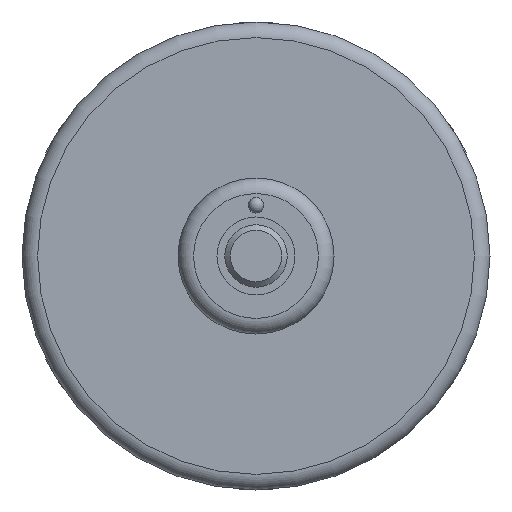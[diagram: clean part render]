
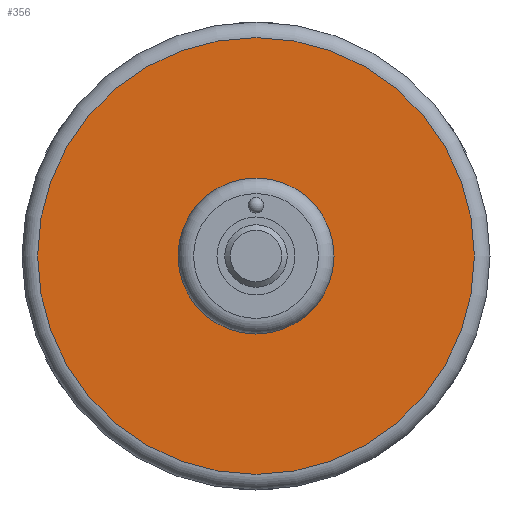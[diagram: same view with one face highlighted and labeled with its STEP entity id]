
A CAD part, left-side view. The second image highlights one B-rep face of the part: STEP entity #356.
In plain terms, the highlighted planar face has unit normal (-1, 0, 0).
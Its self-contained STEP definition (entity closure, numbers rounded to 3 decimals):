
#356 = ADVANCED_FACE( '', ( #822, #823 ), #824, .T. );
#822 = FACE_BOUND( '', #1918, .T. );
#823 = FACE_OUTER_BOUND( '', #1919, .T. );
#824 = PLANE( '', #1920 );
#1918 = EDGE_LOOP( '', ( #3468 ) );
#1919 = EDGE_LOOP( '', ( #3469 ) );
#1920 = AXIS2_PLACEMENT_3D( '', #3470, #3471, #3472 );
#3468 = ORIENTED_EDGE( '', *, *, #3965, .T. );
#3469 = ORIENTED_EDGE( '', *, *, #4123, .T. );
#3470 = CARTESIAN_POINT( '', ( -40.072, 0., 3.4 ) );
#3471 = DIRECTION( '', ( -1., 0., 0. ) );
#3472 = DIRECTION( '', ( 0., 0., 1. ) );
#3965 = EDGE_CURVE( '', #4447, #4447, #4448, .F. );
#4123 = EDGE_CURVE( '', #4683, #4683, #4684, .T. );
#4447 = VERTEX_POINT( '', #5386 );
#4448 = CIRCLE( '', #5387, 5. );
#4683 = VERTEX_POINT( '', #6430 );
#4684 = CIRCLE( '', #6431, 14. );
#5386 = CARTESIAN_POINT( '', ( -40.072, 0., 5. ) );
#5387 = AXIS2_PLACEMENT_3D( '', #7038, #7039, #7040 );
#6430 = CARTESIAN_POINT( '', ( -40.072, 0., 14. ) );
#6431 = AXIS2_PLACEMENT_3D( '', #7227, #7228, #7229 );
#7038 = CARTESIAN_POINT( '', ( -40.072, 0., 0. ) );
#7039 = DIRECTION( '', ( -1., 0., 0. ) );
#7040 = DIRECTION( '', ( 0., 0., 1. ) );
#7227 = CARTESIAN_POINT( '', ( -40.072, 0., 0. ) );
#7228 = DIRECTION( '', ( -1., 0., 0. ) );
#7229 = DIRECTION( '', ( 0., 0., 1. ) );
